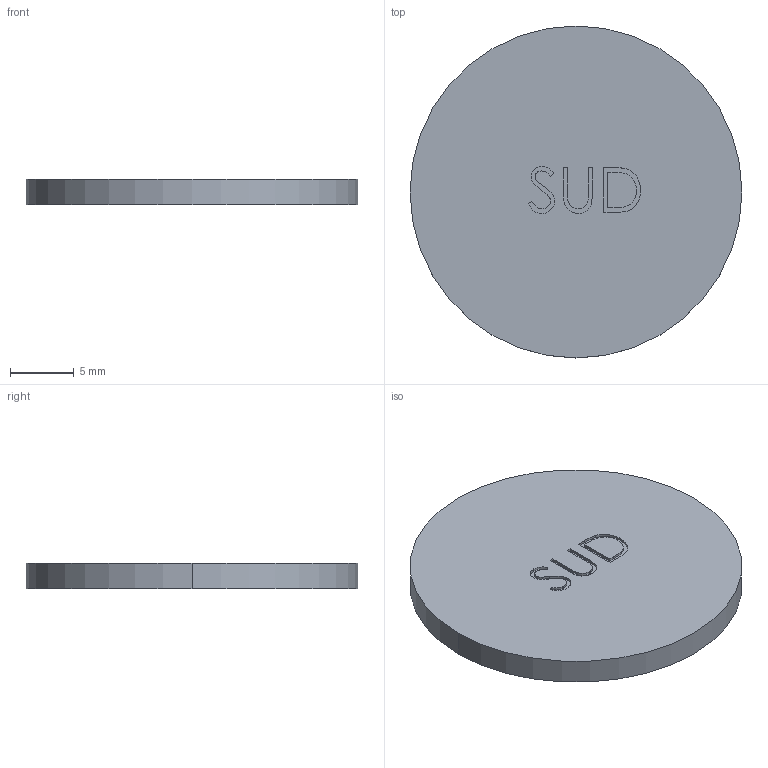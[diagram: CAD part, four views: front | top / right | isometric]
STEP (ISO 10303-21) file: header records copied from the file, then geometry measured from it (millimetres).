
FILE_DESCRIPTION (( 'STEP AP214' ), '1' );
FILE_NAME ('G_4.STEP', '2016-02-27T15:49:47', ( '' ), ( '' ), 'SwSTEP 2.0', 'SolidWorks 2012', '' );
FILE_SCHEMA (( 'AUTOMOTIVE_DESIGN' ));
Length unit declared in the file: millimetre
Products named in the file (1): G_4
Bounding box: 26 x 26 x 2 mm (x, y, z)
Volume: 1060.2 mm3; surface area: 1235.5 mm2
Topology: 1 solids, 1 shells, 51 faces, 135 edges, 90 vertices
Faces by surface type: bspline 29, plane 20, cylinder 2
Entity records: 2989 total; most frequent: CARTESIAN_POINT 1882, ORIENTED_EDGE 270, EDGE_CURVE 135, DIRECTION 127, VERTEX_POINT 90, LINE 73, VECTOR 73, B_SPLINE_CURVE_WITH_KNOTS 58
